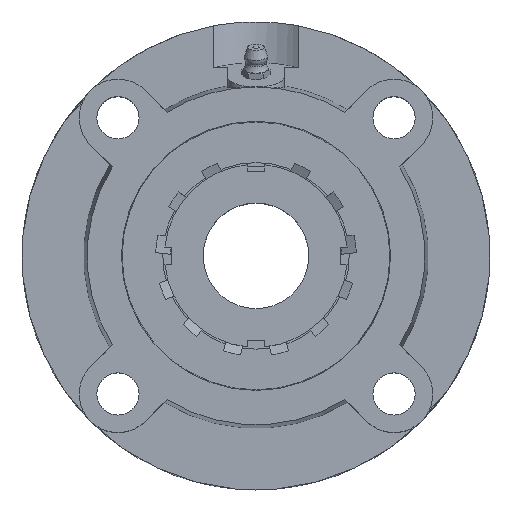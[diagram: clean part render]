
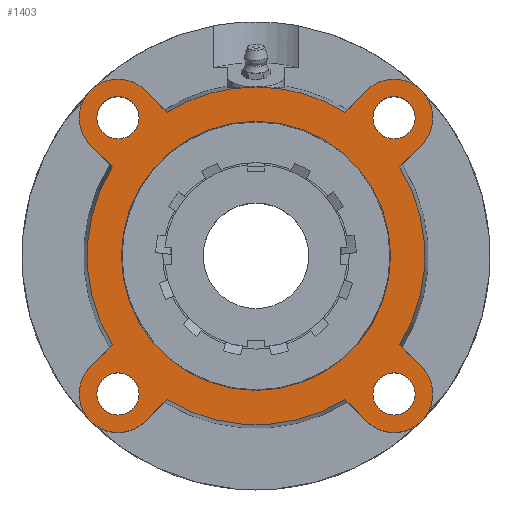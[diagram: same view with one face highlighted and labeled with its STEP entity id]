
A CAD part, top view. The second image highlights one B-rep face of the part: STEP entity #1403.
In plain terms, the highlighted planar face has unit normal (0, 0, 1).
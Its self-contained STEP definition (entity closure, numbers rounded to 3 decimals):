
#181=CARTESIAN_POINT('',(33.244,-39.244,17.));
#182=VERTEX_POINT('',#181);
#183=CARTESIAN_POINT('',(39.244,-39.244,17.));
#184=DIRECTION('',(0.0,0.0,-1.0));
#185=DIRECTION('',(1.0,0.0,0.0));
#186=AXIS2_PLACEMENT_3D('',#183,#184,#185);
#187=CIRCLE('',#186,6.);
#188=EDGE_CURVE('',#182,#182,#187,.T.);
#209=CARTESIAN_POINT('',(-45.244,39.244,17.));
#210=VERTEX_POINT('',#209);
#211=CARTESIAN_POINT('',(-39.244,39.244,17.));
#212=DIRECTION('',(0.0,0.0,-1.0));
#213=DIRECTION('',(1.0,0.0,0.0));
#214=AXIS2_PLACEMENT_3D('',#211,#212,#213);
#215=CIRCLE('',#214,6.);
#216=EDGE_CURVE('',#210,#210,#215,.T.);
#237=CARTESIAN_POINT('',(-45.244,-39.244,17.));
#238=VERTEX_POINT('',#237);
#239=CARTESIAN_POINT('',(-39.244,-39.244,17.));
#240=DIRECTION('',(0.0,0.0,-1.0));
#241=DIRECTION('',(1.0,0.0,0.0));
#242=AXIS2_PLACEMENT_3D('',#239,#240,#241);
#243=CIRCLE('',#242,6.);
#244=EDGE_CURVE('',#238,#238,#243,.T.);
#265=CARTESIAN_POINT('',(33.244,39.244,17.));
#266=VERTEX_POINT('',#265);
#267=CARTESIAN_POINT('',(39.244,39.244,17.));
#268=DIRECTION('',(0.0,0.0,-1.0));
#269=DIRECTION('',(1.0,0.0,0.0));
#270=AXIS2_PLACEMENT_3D('',#267,#268,#269);
#271=CIRCLE('',#270,6.);
#272=EDGE_CURVE('',#266,#266,#271,.T.);
#408=CARTESIAN_POINT('',(0.0,38.25,17.));
#409=VERTEX_POINT('',#408);
#410=CARTESIAN_POINT('',(0.0,0.,17.0));
#411=DIRECTION('',(0.0,0.0,-1.0));
#412=DIRECTION('',(0.0,1.0,0.0));
#413=AXIS2_PLACEMENT_3D('',#410,#411,#412);
#414=CIRCLE('',#413,38.25);
#415=EDGE_CURVE('',#409,#409,#414,.T.);
#682=CARTESIAN_POINT('',(0.,48.,17.0));
#683=VERTEX_POINT('',#682);
#805=CARTESIAN_POINT('',(-25.26,40.816,17.));
#806=VERTEX_POINT('',#805);
#820=CARTESIAN_POINT('',(0.0,0.,17.0));
#821=DIRECTION('',(0.0,0.0,-1.0));
#822=DIRECTION('',(0.0,1.0,0.0));
#823=AXIS2_PLACEMENT_3D('',#820,#821,#822);
#824=CIRCLE('',#823,48.);
#825=EDGE_CURVE('',#806,#683,#824,.T.);
#838=CARTESIAN_POINT('',(25.26,40.816,17.));
#839=VERTEX_POINT('',#838);
#840=CARTESIAN_POINT('',(0.0,0.,17.0));
#841=DIRECTION('',(0.0,0.0,-1.0));
#842=DIRECTION('',(0.0,1.0,0.0));
#843=AXIS2_PLACEMENT_3D('',#840,#841,#842);
#844=CIRCLE('',#843,48.);
#845=EDGE_CURVE('',#683,#839,#844,.T.);
#869=CARTESIAN_POINT('',(-40.816,25.26,17.));
#870=VERTEX_POINT('',#869);
#886=CARTESIAN_POINT('',(-47.023,31.466,17.));
#887=VERTEX_POINT('',#886);
#888=CARTESIAN_POINT('',(-40.816,25.26,17.));
#889=DIRECTION('',(-0.707,0.707,0.0));
#890=VECTOR('',#889,8.777);
#891=LINE('',#888,#890);
#892=EDGE_CURVE('',#870,#887,#891,.T.);
#916=CARTESIAN_POINT('',(-25.26,-40.816,17.));
#917=VERTEX_POINT('',#916);
#933=CARTESIAN_POINT('',(-31.466,-47.023,17.));
#934=VERTEX_POINT('',#933);
#935=CARTESIAN_POINT('',(-25.26,-40.816,17.));
#936=DIRECTION('',(-0.707,-0.707,0.0));
#937=VECTOR('',#936,8.777);
#938=LINE('',#935,#937);
#939=EDGE_CURVE('',#917,#934,#938,.T.);
#963=CARTESIAN_POINT('',(40.816,-25.26,17.));
#964=VERTEX_POINT('',#963);
#980=CARTESIAN_POINT('',(47.023,-31.466,17.));
#981=VERTEX_POINT('',#980);
#982=CARTESIAN_POINT('',(40.816,-25.26,17.));
#983=DIRECTION('',(0.707,-0.707,0.0));
#984=VECTOR('',#983,8.777);
#985=LINE('',#982,#984);
#986=EDGE_CURVE('',#964,#981,#985,.T.);
#1011=CARTESIAN_POINT('',(31.466,47.023,17.));
#1012=VERTEX_POINT('',#1011);
#1013=CARTESIAN_POINT('',(25.26,40.816,17.));
#1014=DIRECTION('',(0.707,0.707,0.0));
#1015=VECTOR('',#1014,8.777);
#1016=LINE('',#1013,#1015);
#1017=EDGE_CURVE('',#839,#1012,#1016,.T.);
#1036=CARTESIAN_POINT('',(25.26,-40.816,17.));
#1037=VERTEX_POINT('',#1036);
#1059=CARTESIAN_POINT('',(31.466,-47.023,17.));
#1060=VERTEX_POINT('',#1059);
#1067=CARTESIAN_POINT('',(31.466,-47.023,17.));
#1068=DIRECTION('',(-0.707,0.707,0.));
#1069=VECTOR('',#1068,8.777);
#1070=LINE('',#1067,#1069);
#1071=EDGE_CURVE('',#1060,#1037,#1070,.T.);
#1081=CARTESIAN_POINT('',(-47.023,-31.466,17.));
#1082=VERTEX_POINT('',#1081);
#1083=CARTESIAN_POINT('',(-39.244,-39.244,17.0));
#1084=DIRECTION('',(0.0,0.0,-1.0));
#1085=DIRECTION('',(-0.634,0.774,0.0));
#1086=AXIS2_PLACEMENT_3D('',#1083,#1084,#1085);
#1087=CIRCLE('',#1086,11.);
#1088=EDGE_CURVE('',#934,#1082,#1087,.T.);
#1123=CARTESIAN_POINT('',(-40.816,-25.26,17.));
#1124=VERTEX_POINT('',#1123);
#1145=CARTESIAN_POINT('',(-47.023,-31.466,17.));
#1146=DIRECTION('',(0.707,0.707,0.));
#1147=VECTOR('',#1146,8.777);
#1148=LINE('',#1145,#1147);
#1149=EDGE_CURVE('',#1082,#1124,#1148,.T.);
#1159=CARTESIAN_POINT('',(-31.466,47.023,17.));
#1160=VERTEX_POINT('',#1159);
#1161=CARTESIAN_POINT('',(-39.244,39.244,17.0));
#1162=DIRECTION('',(0.0,0.0,-1.0));
#1163=DIRECTION('',(0.774,0.634,0.0));
#1164=AXIS2_PLACEMENT_3D('',#1161,#1162,#1163);
#1165=CIRCLE('',#1164,11.);
#1166=EDGE_CURVE('',#887,#1160,#1165,.T.);
#1194=CARTESIAN_POINT('',(-31.466,47.023,17.));
#1195=DIRECTION('',(0.707,-0.707,0.));
#1196=VECTOR('',#1195,8.777);
#1197=LINE('',#1194,#1196);
#1198=EDGE_CURVE('',#1160,#806,#1197,.T.);
#1208=CARTESIAN_POINT('',(47.023,31.466,17.));
#1209=VERTEX_POINT('',#1208);
#1210=CARTESIAN_POINT('',(39.244,39.244,17.0));
#1211=DIRECTION('',(0.0,0.0,-1.0));
#1212=DIRECTION('',(0.634,-0.774,0.0));
#1213=AXIS2_PLACEMENT_3D('',#1210,#1211,#1212);
#1214=CIRCLE('',#1213,11.);
#1215=EDGE_CURVE('',#1012,#1209,#1214,.T.);
#1244=CARTESIAN_POINT('',(40.816,25.26,17.));
#1245=VERTEX_POINT('',#1244);
#1266=CARTESIAN_POINT('',(47.023,31.466,17.));
#1267=DIRECTION('',(-0.707,-0.707,0.));
#1268=VECTOR('',#1267,8.777);
#1269=LINE('',#1266,#1268);
#1270=EDGE_CURVE('',#1209,#1245,#1269,.T.);
#1280=CARTESIAN_POINT('',(39.244,-39.244,17.0));
#1281=DIRECTION('',(0.0,0.0,-1.0));
#1282=DIRECTION('',(-0.774,-0.634,0.0));
#1283=AXIS2_PLACEMENT_3D('',#1280,#1281,#1282);
#1284=CIRCLE('',#1283,11.);
#1285=EDGE_CURVE('',#981,#1060,#1284,.T.);
#1346=CARTESIAN_POINT('',(0.0,24.,17.0));
#1347=DIRECTION('',(0.0,0.0,1.0));
#1348=DIRECTION('',(1.0,0.0,0.0));
#1349=AXIS2_PLACEMENT_3D('',#1346,#1347,#1348);
#1350=PLANE('',#1349);
#1351=CARTESIAN_POINT('',(0.0,0.,17.0));
#1352=DIRECTION('',(0.0,0.0,-1.0));
#1353=DIRECTION('',(0.0,1.0,0.0));
#1354=AXIS2_PLACEMENT_3D('',#1351,#1352,#1353);
#1355=CIRCLE('',#1354,48.);
#1356=EDGE_CURVE('',#1037,#917,#1355,.T.);
#1357=ORIENTED_EDGE('',*,*,#1356,.F.);
#1358=ORIENTED_EDGE('',*,*,#1071,.F.);
#1359=ORIENTED_EDGE('',*,*,#1285,.F.);
#1360=ORIENTED_EDGE('',*,*,#986,.F.);
#1361=CARTESIAN_POINT('',(0.0,0.,17.0));
#1362=DIRECTION('',(0.0,0.0,-1.0));
#1363=DIRECTION('',(0.0,1.0,0.0));
#1364=AXIS2_PLACEMENT_3D('',#1361,#1362,#1363);
#1365=CIRCLE('',#1364,48.);
#1366=EDGE_CURVE('',#1245,#964,#1365,.T.);
#1367=ORIENTED_EDGE('',*,*,#1366,.F.);
#1368=ORIENTED_EDGE('',*,*,#1270,.F.);
#1369=ORIENTED_EDGE('',*,*,#1215,.F.);
#1370=ORIENTED_EDGE('',*,*,#1017,.F.);
#1371=ORIENTED_EDGE('',*,*,#845,.F.);
#1372=ORIENTED_EDGE('',*,*,#825,.F.);
#1373=ORIENTED_EDGE('',*,*,#1198,.F.);
#1374=ORIENTED_EDGE('',*,*,#1166,.F.);
#1375=ORIENTED_EDGE('',*,*,#892,.F.);
#1376=CARTESIAN_POINT('',(0.0,0.,17.0));
#1377=DIRECTION('',(0.0,0.0,-1.0));
#1378=DIRECTION('',(0.0,1.0,0.0));
#1379=AXIS2_PLACEMENT_3D('',#1376,#1377,#1378);
#1380=CIRCLE('',#1379,48.);
#1381=EDGE_CURVE('',#1124,#870,#1380,.T.);
#1382=ORIENTED_EDGE('',*,*,#1381,.F.);
#1383=ORIENTED_EDGE('',*,*,#1149,.F.);
#1384=ORIENTED_EDGE('',*,*,#1088,.F.);
#1385=ORIENTED_EDGE('',*,*,#939,.F.);
#1386=EDGE_LOOP('',(#1357,#1358,#1359,#1360,#1367,#1368,#1369,#1370,#1371,#1372,#1373,#1374,#1375,#1382,#1383,#1384,#1385));
#1387=FACE_OUTER_BOUND('',#1386,.T.);
#1388=ORIENTED_EDGE('',*,*,#188,.T.);
#1389=EDGE_LOOP('',(#1388));
#1390=FACE_BOUND('',#1389,.T.);
#1391=ORIENTED_EDGE('',*,*,#216,.T.);
#1392=EDGE_LOOP('',(#1391));
#1393=FACE_BOUND('',#1392,.T.);
#1394=ORIENTED_EDGE('',*,*,#244,.T.);
#1395=EDGE_LOOP('',(#1394));
#1396=FACE_BOUND('',#1395,.T.);
#1397=ORIENTED_EDGE('',*,*,#272,.T.);
#1398=EDGE_LOOP('',(#1397));
#1399=FACE_BOUND('',#1398,.T.);
#1400=ORIENTED_EDGE('',*,*,#415,.T.);
#1401=EDGE_LOOP('',(#1400));
#1402=FACE_BOUND('',#1401,.T.);
#1403=ADVANCED_FACE('',(#1387,#1390,#1393,#1396,#1399,#1402),#1350,.T.);
